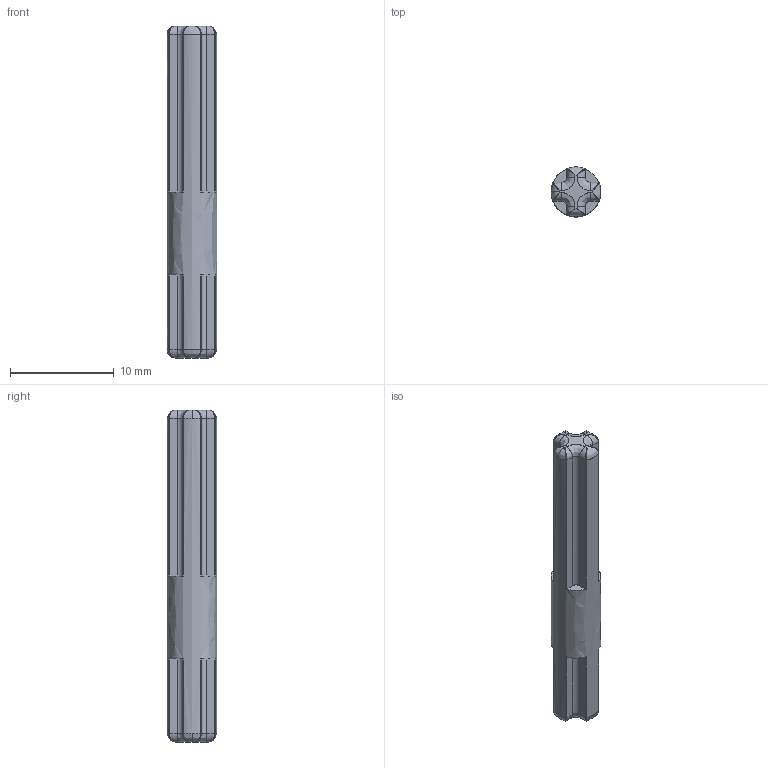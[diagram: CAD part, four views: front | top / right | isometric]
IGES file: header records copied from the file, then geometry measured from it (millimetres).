
Start section: C
Global section: file name: Sand_4666999_JC.iges; native system: By Siemens PLM Incorporated; preprocessor: XPlus GENERIC/IGES 26.1.183; author: Author; organization: Title; date: 20250722.000458; units: millimetre
Bounding box: 4.8 x 4.8 x 32 mm (x, y, z)
Surface area: 553.3 mm2 (no closed solid volume)
Topology: 0 solids, 0 shells, 101 faces, 478 edges, 462 vertices
Faces by surface type: bspline 101
